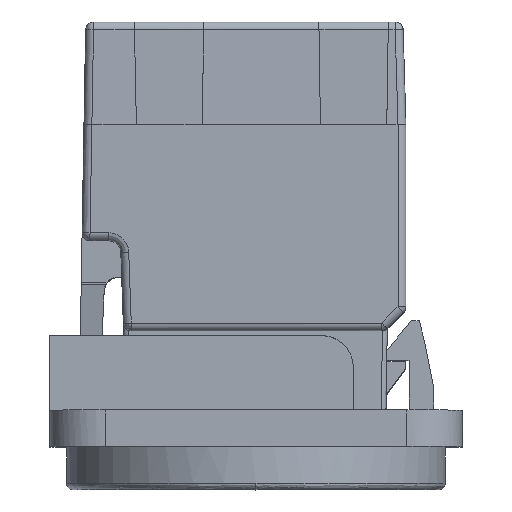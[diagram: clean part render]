
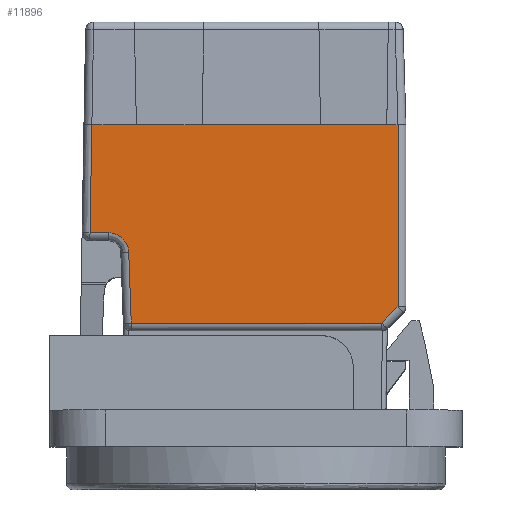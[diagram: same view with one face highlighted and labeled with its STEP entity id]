
A CAD part, top view. The second image highlights one B-rep face of the part: STEP entity #11896.
In plain terms, the highlighted free-form (B-spline) face has degree [1, 1] with [2, 2] control points.
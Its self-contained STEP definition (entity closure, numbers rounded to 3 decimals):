
#8524 = VERTEX_POINT('',#8525);
#8525 = CARTESIAN_POINT('',(6.473,0.,8.908));
#8982 = VERTEX_POINT('',#8983);
#8983 = CARTESIAN_POINT('',(6.473,0.,1.95));
#9135 = VERTEX_POINT('',#9136);
#9136 = CARTESIAN_POINT('',(6.473,0.,4.757));
#9529 = VERTEX_POINT('',#9530);
#9530 = CARTESIAN_POINT('',(6.473,0.,21.257));
#9603 = EDGE_CURVE('',#9604,#9529,#9606,.T.);
#9604 = VERTEX_POINT('',#9605);
#9605 = CARTESIAN_POINT('',(6.473,0.,20.547));
#9606 = B_SPLINE_CURVE_WITH_KNOTS('',5,(#9607,#9608,#9609,#9610,#9611,
    #9612),.UNSPECIFIED.,.F.,.F.,(6,6),(0.,0.71),
  .PIECEWISE_BEZIER_KNOTS.);
#9607 = CARTESIAN_POINT('',(6.473,0.,20.547));
#9608 = CARTESIAN_POINT('',(6.473,0.,20.689));
#9609 = CARTESIAN_POINT('',(6.473,0.,20.831));
#9610 = CARTESIAN_POINT('',(6.473,0.,20.973));
#9611 = CARTESIAN_POINT('',(6.473,0.,21.115));
#9612 = CARTESIAN_POINT('',(6.473,0.,21.257));
#9723 = VERTEX_POINT('',#9724);
#9724 = CARTESIAN_POINT('',(6.473,0.,16.362));
#9772 = EDGE_CURVE('',#8524,#9723,#9773,.T.);
#9773 = B_SPLINE_CURVE_WITH_KNOTS('',5,(#9774,#9775,#9776,#9777,#9778,
    #9779),.UNSPECIFIED.,.F.,.F.,(6,6),(0.,7.454),
  .PIECEWISE_BEZIER_KNOTS.);
#9774 = CARTESIAN_POINT('',(6.473,0.,8.908));
#9775 = CARTESIAN_POINT('',(6.473,0.,10.399));
#9776 = CARTESIAN_POINT('',(6.473,0.,11.89));
#9777 = CARTESIAN_POINT('',(6.473,0.,13.381));
#9778 = CARTESIAN_POINT('',(6.473,0.,14.872));
#9779 = CARTESIAN_POINT('',(6.473,0.,16.362));
#9813 = EDGE_CURVE('',#8982,#9135,#9814,.T.);
#9814 = B_SPLINE_CURVE_WITH_KNOTS('',5,(#9815,#9816,#9817,#9818,#9819,
    #9820),.UNSPECIFIED.,.F.,.F.,(6,6),(0.,2.807),
  .PIECEWISE_BEZIER_KNOTS.);
#9815 = CARTESIAN_POINT('',(6.473,0.,1.95));
#9816 = CARTESIAN_POINT('',(6.473,0.,2.511));
#9817 = CARTESIAN_POINT('',(6.473,0.,3.073));
#9818 = CARTESIAN_POINT('',(6.473,0.,3.634));
#9819 = CARTESIAN_POINT('',(6.473,0.,4.195));
#9820 = CARTESIAN_POINT('',(6.473,0.,4.757));
#9834 = EDGE_CURVE('',#9135,#8524,#9835,.T.);
#9835 = B_SPLINE_CURVE_WITH_KNOTS('',5,(#9836,#9837,#9838,#9839,#9840,
    #9841),.UNSPECIFIED.,.F.,.F.,(6,6),(0.,4.152),
  .PIECEWISE_BEZIER_KNOTS.);
#9836 = CARTESIAN_POINT('',(6.473,0.,4.757));
#9837 = CARTESIAN_POINT('',(6.473,0.,5.587));
#9838 = CARTESIAN_POINT('',(6.473,0.,6.417));
#9839 = CARTESIAN_POINT('',(6.473,0.,7.248));
#9840 = CARTESIAN_POINT('',(6.473,0.,8.078));
#9841 = CARTESIAN_POINT('',(6.473,0.,8.908));
#9894 = EDGE_CURVE('',#9723,#9604,#9895,.T.);
#9895 = B_SPLINE_CURVE_WITH_KNOTS('',5,(#9896,#9897,#9898,#9899,#9900,
    #9901),.UNSPECIFIED.,.F.,.F.,(6,6),(0.,4.185),
  .PIECEWISE_BEZIER_KNOTS.);
#9896 = CARTESIAN_POINT('',(6.473,0.,16.362));
#9897 = CARTESIAN_POINT('',(6.473,0.,17.199));
#9898 = CARTESIAN_POINT('',(6.473,0.,18.036));
#9899 = CARTESIAN_POINT('',(6.473,0.,18.873));
#9900 = CARTESIAN_POINT('',(6.473,0.,19.71));
#9901 = CARTESIAN_POINT('',(6.473,0.,20.547));
#10509 = VERTEX_POINT('',#10510);
#10510 = CARTESIAN_POINT('',(13.296,0.,1.833));
#10808 = VERTEX_POINT('',#10809);
#10809 = CARTESIAN_POINT('',(17.97,0.,21.257));
#10875 = EDGE_CURVE('',#9529,#10808,#10876,.T.);
#10876 = B_SPLINE_CURVE_WITH_KNOTS('',5,(#10877,#10878,#10879,#10880,
    #10881,#10882),.UNSPECIFIED.,.F.,.F.,(6,6),(0.,11.497),
  .PIECEWISE_BEZIER_KNOTS.);
#10877 = CARTESIAN_POINT('',(6.473,0.,21.257));
#10878 = CARTESIAN_POINT('',(8.773,0.,21.257));
#10879 = CARTESIAN_POINT('',(11.072,0.,21.257)
  );
#10880 = CARTESIAN_POINT('',(13.371,0.,21.257)
  );
#10881 = CARTESIAN_POINT('',(15.671,0.,21.257));
#10882 = CARTESIAN_POINT('',(17.97,0.,21.257)
  );
#10987 = VERTEX_POINT('',#10988);
#10988 = CARTESIAN_POINT('',(18.985,0.,20.209));
#11083 = VERTEX_POINT('',#11084);
#11084 = CARTESIAN_POINT('',(18.985,0.,4.432));
#11162 = EDGE_CURVE('',#10987,#11083,#11163,.T.);
#11163 = B_SPLINE_CURVE_WITH_KNOTS('',5,(#11164,#11165,#11166,#11167,
    #11168,#11169),.UNSPECIFIED.,.F.,.F.,(6,6),(0.,15.778),
  .PIECEWISE_BEZIER_KNOTS.);
#11164 = CARTESIAN_POINT('',(18.985,0.,20.209)
  );
#11165 = CARTESIAN_POINT('',(18.985,0.,17.054)
  );
#11166 = CARTESIAN_POINT('',(18.985,0.,13.898)
  );
#11167 = CARTESIAN_POINT('',(18.985,0.,10.743)
  );
#11168 = CARTESIAN_POINT('',(18.985,0.,7.587));
#11169 = CARTESIAN_POINT('',(18.985,0.,4.432));
#11198 = VERTEX_POINT('',#11199);
#11199 = CARTESIAN_POINT('',(13.296,0.,2.994));
#11217 = EDGE_CURVE('',#11198,#10509,#11218,.T.);
#11218 = B_SPLINE_CURVE_WITH_KNOTS('',5,(#11219,#11220,#11221,#11222,
    #11223,#11224),.UNSPECIFIED.,.F.,.F.,(6,6),(0.,1.161),
  .PIECEWISE_BEZIER_KNOTS.);
#11219 = CARTESIAN_POINT('',(13.296,0.,2.994));
#11220 = CARTESIAN_POINT('',(13.296,0.,2.762));
#11221 = CARTESIAN_POINT('',(13.296,0.,2.529));
#11222 = CARTESIAN_POINT('',(13.296,0.,2.297));
#11223 = CARTESIAN_POINT('',(13.296,0.,2.065));
#11224 = CARTESIAN_POINT('',(13.296,0.,1.833));
#11241 = VERTEX_POINT('',#11242);
#11242 = CARTESIAN_POINT('',(14.532,0.,4.274));
#11260 = EDGE_CURVE('',#11241,#11198,#11261,.T.);
#11261 = B_SPLINE_CURVE_WITH_KNOTS('',5,(#11262,#11263,#11264,#11265,
    #11266,#11267,#11268,#11269,#11270,#11271,#11272,#11273,#11274,
    #11275,#11276),.UNSPECIFIED.,.F.,.F.,(6,3,3,3,6),(0.,0.384,
    0.768,1.152,1.535),.UNSPECIFIED.);
#11262 = CARTESIAN_POINT('',(14.532,0.,4.274));
#11263 = CARTESIAN_POINT('',(14.434,0.,4.271));
#11264 = CARTESIAN_POINT('',(14.336,0.,4.258));
#11265 = CARTESIAN_POINT('',(14.24,0.,4.236));
#11266 = CARTESIAN_POINT('',(14.052,0.,4.173));
#11267 = CARTESIAN_POINT('',(13.88,0.,4.076));
#11268 = CARTESIAN_POINT('',(13.799,0.,4.019));
#11269 = CARTESIAN_POINT('',(13.649,0.,3.89));
#11270 = CARTESIAN_POINT('',(13.526,0.,3.736));
#11271 = CARTESIAN_POINT('',(13.472,0.,3.653));
#11272 = CARTESIAN_POINT('',(13.381,0.,3.477));
#11273 = CARTESIAN_POINT('',(13.324,0.,3.288));
#11274 = CARTESIAN_POINT('',(13.306,0.,3.191));
#11275 = CARTESIAN_POINT('',(13.296,0.,3.092));
#11276 = CARTESIAN_POINT('',(13.296,0.,2.994));
#11319 = EDGE_CURVE('',#11083,#11241,#11320,.T.);
#11320 = B_SPLINE_CURVE_WITH_KNOTS('',5,(#11321,#11322,#11323,#11324,
    #11325,#11326),.UNSPECIFIED.,.F.,.F.,(6,6),(0.,4.455),
  .PIECEWISE_BEZIER_KNOTS.);
#11321 = CARTESIAN_POINT('',(18.985,0.,4.432));
#11322 = CARTESIAN_POINT('',(18.094,0.,4.4));
#11323 = CARTESIAN_POINT('',(17.204,0.,4.369));
#11324 = CARTESIAN_POINT('',(16.313,0.,4.337));
#11325 = CARTESIAN_POINT('',(15.423,0.,4.306));
#11326 = CARTESIAN_POINT('',(14.532,0.,4.274));
#11431 = EDGE_CURVE('',#10808,#10987,#11432,.T.);
#11432 = B_SPLINE_CURVE_WITH_KNOTS('',5,(#11433,#11434,#11435,#11436,
    #11437,#11438),.UNSPECIFIED.,.F.,.F.,(6,6),(0.,1.458),
  .PIECEWISE_BEZIER_KNOTS.);
#11433 = CARTESIAN_POINT('',(17.97,0.,21.257)
  );
#11434 = CARTESIAN_POINT('',(18.173,0.,21.047)
  );
#11435 = CARTESIAN_POINT('',(18.376,0.,20.838));
#11436 = CARTESIAN_POINT('',(18.579,0.,20.628)
  );
#11437 = CARTESIAN_POINT('',(18.782,0.,20.419));
#11438 = CARTESIAN_POINT('',(18.985,0.,20.209)
  );
#11697 = EDGE_CURVE('',#10509,#8982,#11698,.T.);
#11698 = B_SPLINE_CURVE_WITH_KNOTS('',5,(#11699,#11700,#11701,#11702,
    #11703,#11704),.UNSPECIFIED.,.F.,.F.,(6,6),(0.,6.824),
  .PIECEWISE_BEZIER_KNOTS.);
#11699 = CARTESIAN_POINT('',(13.296,0.,1.833));
#11700 = CARTESIAN_POINT('',(11.932,0.,1.856));
#11701 = CARTESIAN_POINT('',(10.567,0.,1.88));
#11702 = CARTESIAN_POINT('',(9.202,0.,1.903));
#11703 = CARTESIAN_POINT('',(7.838,0.,1.926));
#11704 = CARTESIAN_POINT('',(6.473,0.,1.95));
#11896 = ADVANCED_FACE('',(#11897),#11911,.T.);
#11897 = FACE_BOUND('',#11898,.T.);
#11898 = EDGE_LOOP('',(#11899,#11900,#11901,#11902,#11903,#11904,#11905,
    #11906,#11907,#11908,#11909,#11910));
#11899 = ORIENTED_EDGE('',*,*,#10875,.F.);
#11900 = ORIENTED_EDGE('',*,*,#9603,.F.);
#11901 = ORIENTED_EDGE('',*,*,#9894,.F.);
#11902 = ORIENTED_EDGE('',*,*,#9772,.F.);
#11903 = ORIENTED_EDGE('',*,*,#9834,.F.);
#11904 = ORIENTED_EDGE('',*,*,#9813,.F.);
#11905 = ORIENTED_EDGE('',*,*,#11697,.F.);
#11906 = ORIENTED_EDGE('',*,*,#11217,.F.);
#11907 = ORIENTED_EDGE('',*,*,#11260,.F.);
#11908 = ORIENTED_EDGE('',*,*,#11319,.F.);
#11909 = ORIENTED_EDGE('',*,*,#11162,.F.);
#11910 = ORIENTED_EDGE('',*,*,#11431,.F.);
#11911 = B_SPLINE_SURFACE_WITH_KNOTS('',1,1,(
    (#11912,#11913)
    ,(#11914,#11915
    )),.UNSPECIFIED.,.F.,.F.,.F.,(2,2),(2,2),(0.,1.552),(0.,
    1.),.PIECEWISE_BEZIER_KNOTS.);
#11912 = CARTESIAN_POINT('',(6.473,0.,21.257));
#11913 = CARTESIAN_POINT('',(18.985,0.,21.257)
  );
#11914 = CARTESIAN_POINT('',(6.473,0.,1.833));
#11915 = CARTESIAN_POINT('',(18.985,0.,1.833));
